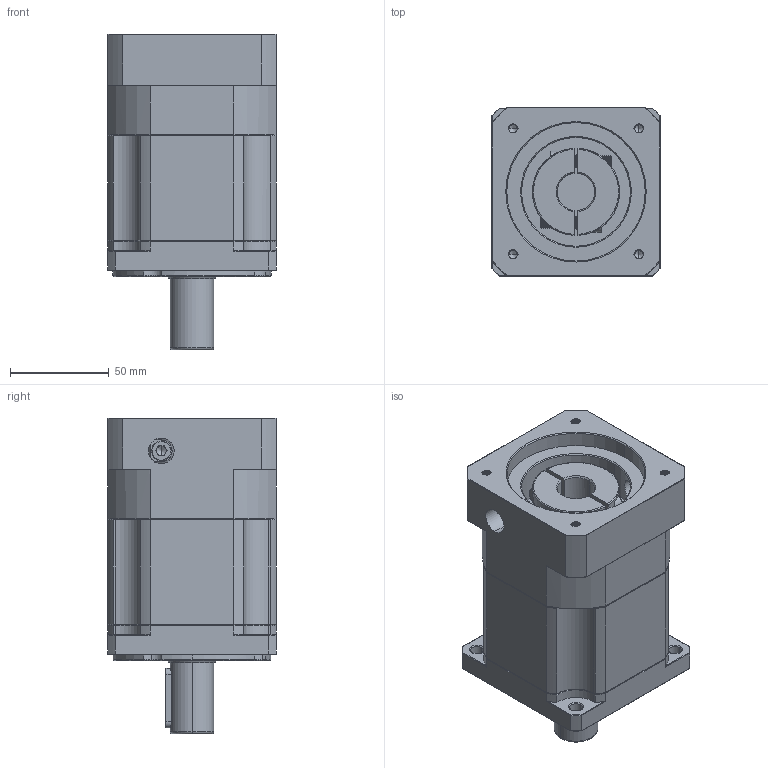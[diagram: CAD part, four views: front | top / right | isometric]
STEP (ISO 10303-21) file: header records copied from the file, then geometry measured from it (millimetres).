
FILE_DESCRIPTION (( 'STEP AP214' ), '1' );
FILE_NAME ('ZB090-D22-L2-P2-19-70-90-M5.step', '2023-08-18T12:14:13', ( '' ), ( '' ), 'SwSTEP 2.0', 'SolidWorks 2016', '' );
FILE_SCHEMA (( 'AUTOMOTIVE_DESIGN' ));
Length unit declared in the file: millimetre
Products named in the file (1): ZB090-D22-L2-P2-19-70-90-M5
Bounding box: 85 x 85 x 159.5 mm (x, y, z)
Volume: 732108.6 mm3; surface area: 90503.7 mm2
Topology: 4 solids, 4 shells, 2189 faces, 5845 edges, 3738 vertices
Faces by surface type: plane 1056, bspline 412, cylinder 390, cone 319, torus 12
Entity records: 119898 total; most frequent: CARTESIAN_POINT 44733, ORIENTED_EDGE 11646, DIRECTION 9008, EDGE_CURVE 5823, VERTEX_POINT 3738, VECTOR 3706, LINE 3706, AXIS2_PLACEMENT_3D 2651
